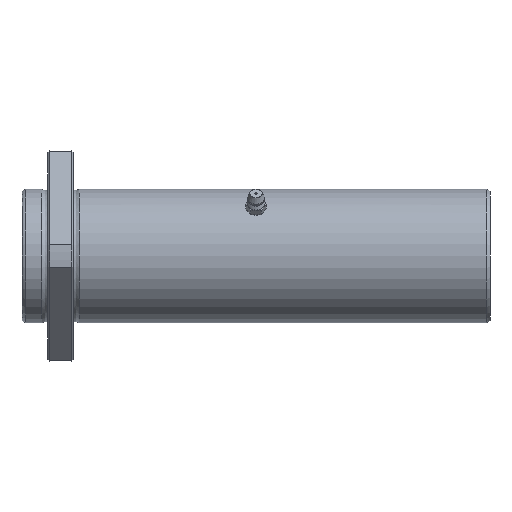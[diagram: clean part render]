
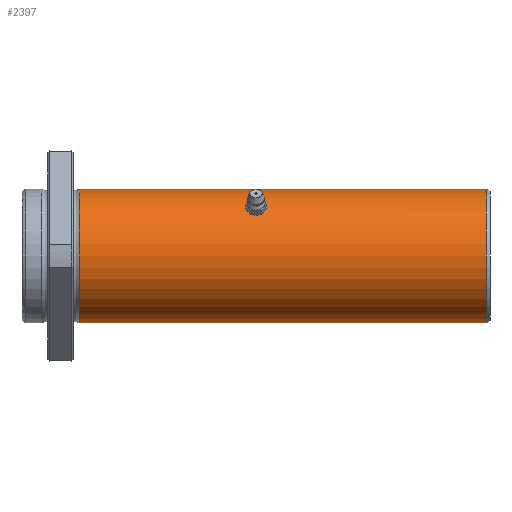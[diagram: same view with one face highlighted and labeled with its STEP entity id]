
A CAD part, front view. The second image highlights one B-rep face of the part: STEP entity #2397.
In plain terms, the highlighted cylindrical face has radius 26 mm (diameter 52 mm), a full revolution.
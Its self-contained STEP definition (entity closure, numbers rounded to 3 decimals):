
#1308=CARTESIAN_POINT('',(87.5,-18.385,18.385));
#1309=VERTEX_POINT('',#1308);
#1439=CARTESIAN_POINT('',(94.5,-18.385,18.385));
#1440=VERTEX_POINT('',#1439);
#1793=CARTESIAN_POINT('',(88.,-18.385,18.385));
#1794=VERTEX_POINT('',#1793);
#1801=CARTESIAN_POINT('',(94.,-18.385,18.385));
#1802=VERTEX_POINT('',#1801);
#1963=CARTESIAN_POINT('',(94.,-18.385,18.385));
#1964=CARTESIAN_POINT('',(94.,-18.651,18.118));
#1965=CARTESIAN_POINT('',(93.925,-18.929,17.828));
#1966=CARTESIAN_POINT('',(93.771,-19.179,17.555));
#1967=CARTESIAN_POINT('',(93.667,-19.349,17.369));
#1968=CARTESIAN_POINT('',(93.527,-19.507,17.19));
#1969=CARTESIAN_POINT('',(93.363,-19.645,17.032));
#1970=CARTESIAN_POINT('',(93.212,-19.772,16.885));
#1971=CARTESIAN_POINT('',(93.045,-19.88,16.757));
#1972=CARTESIAN_POINT('',(92.852,-19.978,16.64));
#1973=CARTESIAN_POINT('',(92.541,-20.135,16.452));
#1974=CARTESIAN_POINT('',(92.167,-20.254,16.304));
#1975=CARTESIAN_POINT('',(91.777,-20.319,16.221));
#1976=CARTESIAN_POINT('',(91.565,-20.355,16.177));
#1977=CARTESIAN_POINT('',(91.349,-20.375,16.151));
#1978=CARTESIAN_POINT('',(91.138,-20.381,16.143));
#1979=CARTESIAN_POINT('',(90.967,-20.386,16.137));
#1980=CARTESIAN_POINT('',(90.797,-20.382,16.142));
#1981=CARTESIAN_POINT('',(90.624,-20.368,16.159));
#1982=CARTESIAN_POINT('',(90.263,-20.34,16.195));
#1983=CARTESIAN_POINT('',(89.899,-20.268,16.286));
#1984=CARTESIAN_POINT('',(89.573,-20.156,16.424));
#1985=CARTESIAN_POINT('',(89.379,-20.089,16.506));
#1986=CARTESIAN_POINT('',(89.197,-20.008,16.604));
#1987=CARTESIAN_POINT('',(89.036,-19.918,16.711));
#1988=CARTESIAN_POINT('',(88.894,-19.839,16.806));
#1989=CARTESIAN_POINT('',(88.767,-19.753,16.907));
#1990=CARTESIAN_POINT('',(88.649,-19.655,17.02));
#1991=CARTESIAN_POINT('',(88.404,-19.452,17.254));
#1992=CARTESIAN_POINT('',(88.213,-19.203,17.532));
#1993=CARTESIAN_POINT('',(88.106,-18.936,17.816));
#1994=CARTESIAN_POINT('',(88.034,-18.756,18.008));
#1995=CARTESIAN_POINT('',(88.,-18.568,18.202));
#1996=CARTESIAN_POINT('',(88.,-18.385,18.385));
#1997=B_SPLINE_CURVE_WITH_KNOTS('',3,(#1963,#1964,#1965,#1966,#1967,#1968,#1969,#1970,#1971,#1972,#1973,#1974,#1975,#1976,#1977,#1978,#1979,#1980,#1981,#1982,#1983,#1984,#1985,#1986,#1987,#1988,#1989,#1990,#1991,#1992,#1993,#1994,#1995,#1996),.UNSPECIFIED.,.F.,.U.,(4,3,3,3,3,3,3,3,3,3,3,4),(1.357,1.47,1.548,1.619,1.734,1.796,1.847,1.952,2.015,2.07,2.185,2.262),.UNSPECIFIED.);
#1998=EDGE_CURVE('',#1802,#1794,#1997,.T.);
#2009=CARTESIAN_POINT('',(88.,-18.385,18.385));
#2010=CARTESIAN_POINT('',(88.,-18.118,18.651));
#2011=CARTESIAN_POINT('',(88.075,-17.828,18.929));
#2012=CARTESIAN_POINT('',(88.229,-17.555,19.179));
#2013=CARTESIAN_POINT('',(88.333,-17.369,19.349));
#2014=CARTESIAN_POINT('',(88.473,-17.19,19.507));
#2015=CARTESIAN_POINT('',(88.637,-17.032,19.645));
#2016=CARTESIAN_POINT('',(88.788,-16.885,19.772));
#2017=CARTESIAN_POINT('',(88.955,-16.757,19.88));
#2018=CARTESIAN_POINT('',(89.148,-16.64,19.978));
#2019=CARTESIAN_POINT('',(89.459,-16.452,20.135));
#2020=CARTESIAN_POINT('',(89.833,-16.304,20.254));
#2021=CARTESIAN_POINT('',(90.223,-16.221,20.319));
#2022=CARTESIAN_POINT('',(90.435,-16.177,20.355));
#2023=CARTESIAN_POINT('',(90.651,-16.151,20.375));
#2024=CARTESIAN_POINT('',(90.862,-16.143,20.381));
#2025=CARTESIAN_POINT('',(91.033,-16.137,20.386));
#2026=CARTESIAN_POINT('',(91.203,-16.142,20.382));
#2027=CARTESIAN_POINT('',(91.376,-16.159,20.368));
#2028=CARTESIAN_POINT('',(91.737,-16.195,20.34));
#2029=CARTESIAN_POINT('',(92.101,-16.286,20.268));
#2030=CARTESIAN_POINT('',(92.427,-16.424,20.156));
#2031=CARTESIAN_POINT('',(92.621,-16.506,20.089));
#2032=CARTESIAN_POINT('',(92.803,-16.604,20.008));
#2033=CARTESIAN_POINT('',(92.964,-16.711,19.918));
#2034=CARTESIAN_POINT('',(93.106,-16.806,19.839));
#2035=CARTESIAN_POINT('',(93.233,-16.907,19.753));
#2036=CARTESIAN_POINT('',(93.351,-17.02,19.655));
#2037=CARTESIAN_POINT('',(93.596,-17.254,19.452));
#2038=CARTESIAN_POINT('',(93.787,-17.532,19.203));
#2039=CARTESIAN_POINT('',(93.894,-17.816,18.936));
#2040=CARTESIAN_POINT('',(93.966,-18.008,18.756));
#2041=CARTESIAN_POINT('',(94.,-18.202,18.568));
#2042=CARTESIAN_POINT('',(94.,-18.385,18.385));
#2043=B_SPLINE_CURVE_WITH_KNOTS('',3,(#2009,#2010,#2011,#2012,#2013,#2014,#2015,#2016,#2017,#2018,#2019,#2020,#2021,#2022,#2023,#2024,#2025,#2026,#2027,#2028,#2029,#2030,#2031,#2032,#2033,#2034,#2035,#2036,#2037,#2038,#2039,#2040,#2041,#2042),.UNSPECIFIED.,.F.,.U.,(4,3,3,3,3,3,3,3,3,3,3,4),(0.452,0.566,0.643,0.714,0.829,0.891,0.942,1.047,1.11,1.165,1.28,1.357),.UNSPECIFIED.);
#2044=EDGE_CURVE('',#1794,#1802,#2043,.T.);
#2345=CARTESIAN_POINT('',(180.502,0.0,26.));
#2346=VERTEX_POINT('',#2345);
#2347=CARTESIAN_POINT('',(180.502,0.0,0.0));
#2348=DIRECTION('',(-1.0,0.0,0.0));
#2349=DIRECTION('',(0.0,0.0,1.0));
#2350=AXIS2_PLACEMENT_3D('',#2347,#2348,#2349);
#2351=CIRCLE('',#2350,26.);
#2352=EDGE_CURVE('',#2346,#2346,#2351,.T.);
#2360=CARTESIAN_POINT('',(101.362,0.0,0.0));
#2361=DIRECTION('',(-1.0,0.0,0.0));
#2362=DIRECTION('',(0.0,0.0,1.0));
#2363=AXIS2_PLACEMENT_3D('',#2360,#2361,#2362);
#2364=CYLINDRICAL_SURFACE('',#2363,26.);
#2365=CARTESIAN_POINT('',(22.223,0.0,26.));
#2366=VERTEX_POINT('',#2365);
#2367=CARTESIAN_POINT('',(22.223,0.0,0.0));
#2368=DIRECTION('',(-1.0,0.0,0.0));
#2369=DIRECTION('',(0.0,0.0,1.0));
#2370=AXIS2_PLACEMENT_3D('',#2367,#2368,#2369);
#2371=CIRCLE('',#2370,26.);
#2372=EDGE_CURVE('',#2366,#2366,#2371,.T.);
#2373=ORIENTED_EDGE('',*,*,#2372,.F.);
#2374=EDGE_LOOP('',(#2373));
#2375=FACE_OUTER_BOUND('',#2374,.T.);
#2376=CARTESIAN_POINT('',(88.,-18.385,18.385));
#2377=DIRECTION('',(-1.0,0.0,0.0));
#2378=VECTOR('',#2377,0.5);
#2379=LINE('',#2376,#2378);
#2380=EDGE_CURVE('',#1794,#1309,#2379,.T.);
#2381=ORIENTED_EDGE('',*,*,#2380,.T.);
#2382=ORIENTED_EDGE('',*,*,#2380,.F.);
#2383=ORIENTED_EDGE('',*,*,#2044,.T.);
#2384=CARTESIAN_POINT('',(94.5,-18.385,18.385));
#2385=DIRECTION('',(-1.0,0.0,0.0));
#2386=VECTOR('',#2385,0.5);
#2387=LINE('',#2384,#2386);
#2388=EDGE_CURVE('',#1440,#1802,#2387,.T.);
#2389=ORIENTED_EDGE('',*,*,#2388,.F.);
#2390=ORIENTED_EDGE('',*,*,#2388,.T.);
#2391=ORIENTED_EDGE('',*,*,#1998,.T.);
#2392=EDGE_LOOP('',(#2381,#2382,#2383,#2389,#2390,#2391));
#2393=FACE_BOUND('',#2392,.T.);
#2394=ORIENTED_EDGE('',*,*,#2352,.T.);
#2395=EDGE_LOOP('',(#2394));
#2396=FACE_BOUND('',#2395,.T.);
#2397=ADVANCED_FACE('',(#2375,#2393,#2396),#2364,.T.);
